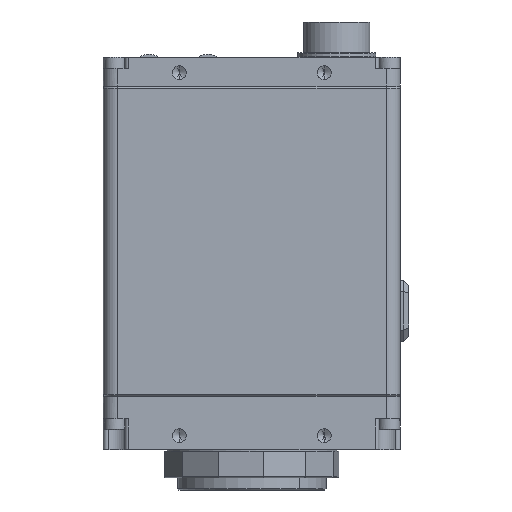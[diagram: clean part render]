
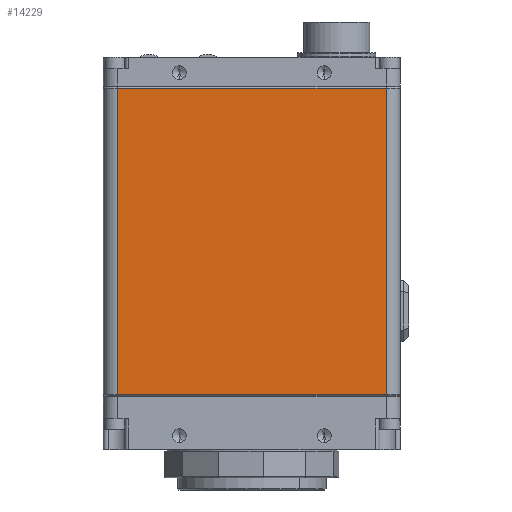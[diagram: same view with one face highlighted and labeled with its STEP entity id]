
A CAD part, front view. The second image highlights one B-rep face of the part: STEP entity #14229.
In plain terms, the highlighted planar face has unit normal (0, -1, 0).
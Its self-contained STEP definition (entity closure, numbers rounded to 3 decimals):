
#1423 = VECTOR ( 'NONE', #45624, 1000. ) ;
#2171 = AXIS2_PLACEMENT_3D ( 'NONE', #34430, #42412, #34268 ) ;
#2367 = EDGE_CURVE ( 'NONE', #50903, #27846, #34526, .T. ) ;
#2841 = CARTESIAN_POINT ( 'NONE',  ( 24.13, -16.51, 10.316 ) ) ;
#5593 = PLANE ( 'NONE',  #2171 ) ;
#8050 = LINE ( 'NONE', #17008, #13768 ) ;
#10687 = CARTESIAN_POINT ( 'NONE',  ( -24.13, -16.51, 10.316 ) ) ;
#11595 = ORIENTED_EDGE ( 'NONE', *, *, #2367, .T. ) ;
#12705 = EDGE_CURVE ( 'NONE', #27846, #30520, #49243, .T. ) ;
#12860 = EDGE_CURVE ( 'NONE', #30520, #18470, #8050, .T. ) ;
#13091 = CARTESIAN_POINT ( 'NONE',  ( 24.13, -16.51, -44.955 ) ) ;
#13768 = VECTOR ( 'NONE', #16847, 1000. ) ;
#14229 = ADVANCED_FACE ( 'NONE', ( #44584 ), #5593, .F. ) ;
#15391 = ORIENTED_EDGE ( 'NONE', *, *, #18409, .T. ) ;
#16847 = DIRECTION ( 'NONE',  ( 1., 0., 0. ) ) ;
#17008 = CARTESIAN_POINT ( 'NONE',  ( 24.13, -16.51, -44.701 ) ) ;
#17613 = CARTESIAN_POINT ( 'NONE',  ( 24.13, -16.51, -44.701 ) ) ;
#18409 = EDGE_CURVE ( 'NONE', #18470, #50903, #41367, .T. ) ;
#18470 = VERTEX_POINT ( 'NONE', #17613 ) ;
#18691 = EDGE_LOOP ( 'NONE', ( #35751, #42341, #15391, #11595 ) ) ;
#19226 = VECTOR ( 'NONE', #34496, 1000. ) ;
#20182 = CARTESIAN_POINT ( 'NONE',  ( -24.13, -16.51, -44.955 ) ) ;
#27846 = VERTEX_POINT ( 'NONE', #10687 ) ;
#30085 = CARTESIAN_POINT ( 'NONE',  ( -26.67, -16.51, 10.316 ) ) ;
#30520 = VERTEX_POINT ( 'NONE', #33785 ) ;
#33785 = CARTESIAN_POINT ( 'NONE',  ( -24.13, -16.51, -44.701 ) ) ;
#34268 = DIRECTION ( 'NONE',  ( 1., 0., 0. ) ) ;
#34430 = CARTESIAN_POINT ( 'NONE',  ( -26.67, -16.51, -44.955 ) ) ;
#34496 = DIRECTION ( 'NONE',  ( -1., 0., 0. ) ) ;
#34526 = LINE ( 'NONE', #30085, #19226 ) ;
#35751 = ORIENTED_EDGE ( 'NONE', *, *, #12705, .T. ) ;
#41367 = LINE ( 'NONE', #13091, #1423 ) ;
#42341 = ORIENTED_EDGE ( 'NONE', *, *, #12860, .T. ) ;
#42412 = DIRECTION ( 'NONE',  ( 0., 1., 0. ) ) ;
#44584 = FACE_OUTER_BOUND ( 'NONE', #18691, .T. ) ;
#45624 = DIRECTION ( 'NONE',  ( 0., 0., 1. ) ) ;
#47987 = VECTOR ( 'NONE', #48540, 1000. ) ;
#48540 = DIRECTION ( 'NONE',  ( 0., 0., -1. ) ) ;
#49243 = LINE ( 'NONE', #20182, #47987 ) ;
#50903 = VERTEX_POINT ( 'NONE', #2841 ) ;
